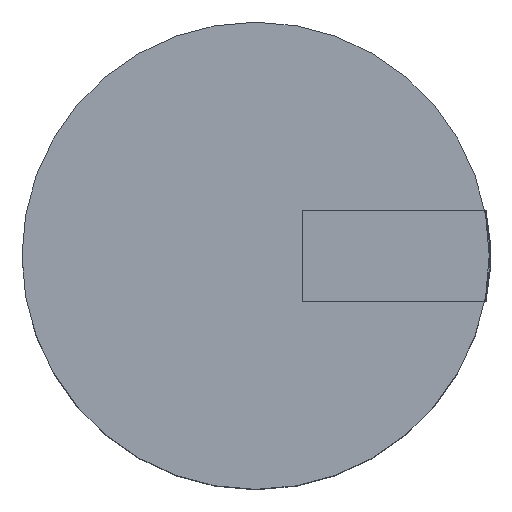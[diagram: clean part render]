
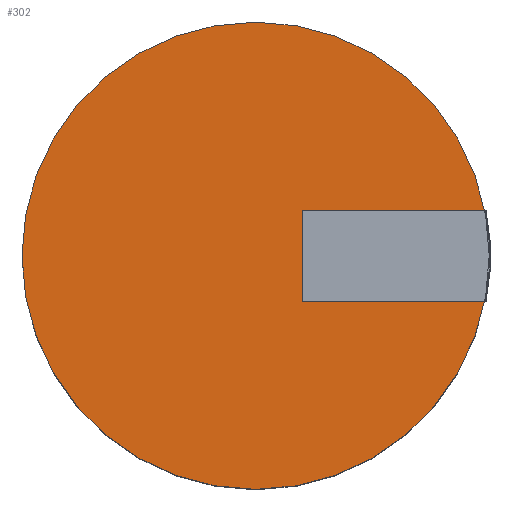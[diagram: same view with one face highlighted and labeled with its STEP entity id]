
A CAD part, top view. The second image highlights one B-rep face of the part: STEP entity #302.
In plain terms, the highlighted planar face has unit normal (0, 0, 1).
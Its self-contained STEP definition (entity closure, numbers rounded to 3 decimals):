
#302=ADVANCED_FACE($,(#308),#304,.T.);
#304=PLANE($,#329);
#308=FACE_OUTER_BOUND($,#312,.T.);
#312=EDGE_LOOP($,(#322));
#313=CIRCLE($,#326,6.35);
#315=VERTEX_POINT('',#344);
#317=EDGE_CURVE($,#315,#315,#313,.T.);
#322=ORIENTED_EDGE($,*,*,#317,.T.);
#326=AXIS2_PLACEMENT_3D($,#345,#334,#335);
#329=AXIS2_PLACEMENT_3D($,#349,#340,#341);
#334=DIRECTION('',(0.,0.,1.));
#335=DIRECTION('',(1.,0.,0.));
#340=DIRECTION('',(0.,0.,1.));
#341=DIRECTION('',(0.,1.,0.));
#344=CARTESIAN_POINT('',(-3.85,0.0,7.01));
#345=CARTESIAN_POINT('',(2.5,0.0,7.01));
#349=CARTESIAN_POINT('',(2.5,0.0,7.01));
